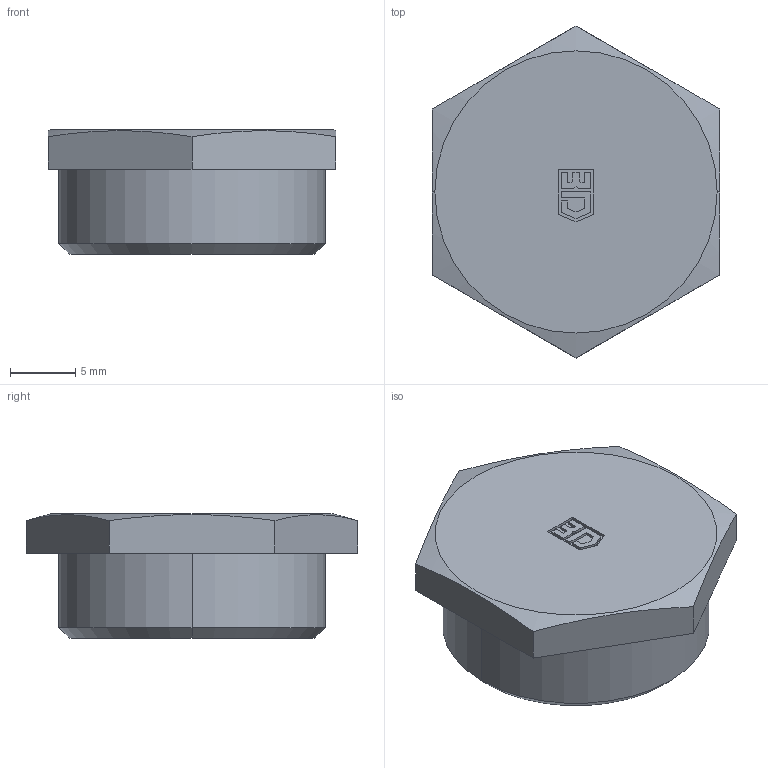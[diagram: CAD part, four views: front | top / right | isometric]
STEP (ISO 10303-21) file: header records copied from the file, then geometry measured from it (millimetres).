
FILE_DESCRIPTION (( 'STEP AP203' ), '1' );
FILE_NAME ('10.613 M.STEP', '2005-11-22T09:03:24', ( ' ' ), ( '' ), 'SwSTEP 2.0', 'SolidWorks 2005278', '' );
FILE_SCHEMA (( 'CONFIG_CONTROL_DESIGN' ));
Length unit declared in the file: millimetre
Products named in the file (1): 10.613 M
Bounding box: 22 x 25.4 x 9.5 mm (x, y, z)
Volume: 1877.8 mm3; surface area: 1792.7 mm2
Topology: 1 solids, 1 shells, 55 faces, 142 edges, 94 vertices
Faces by surface type: plane 47, cone 4, cylinder 4
Entity records: 1765 total; most frequent: CARTESIAN_POINT 344, ORIENTED_EDGE 284, DIRECTION 258, EDGE_CURVE 142, VECTOR 122, LINE 122, VERTEX_POINT 94, AXIS2_PLACEMENT_3D 68
